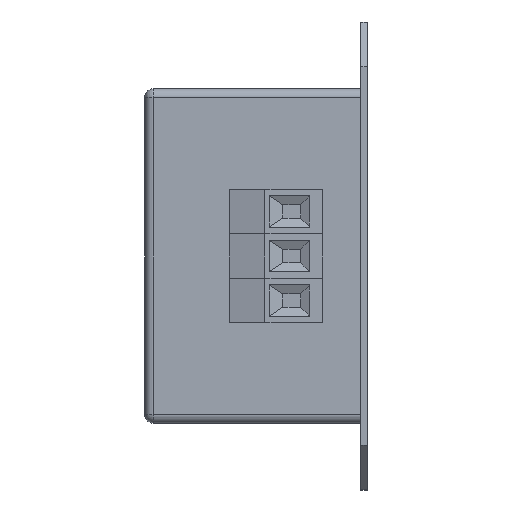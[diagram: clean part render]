
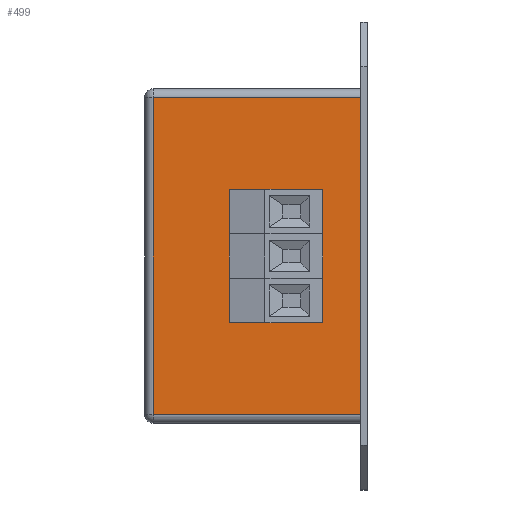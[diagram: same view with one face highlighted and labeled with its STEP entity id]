
A CAD part, left-side view. The second image highlights one B-rep face of the part: STEP entity #499.
In plain terms, the highlighted planar face has unit normal (-1, 0, 0).
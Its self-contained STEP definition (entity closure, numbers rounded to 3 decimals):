
#102 = DIRECTION ( 'NONE',  ( 0., 0., -1. ) ) ;
#454 = EDGE_CURVE ( 'NONE', #455, #456, #1537, .T. ) ;
#455 = VERTEX_POINT ( 'NONE', #2109 ) ;
#456 = VERTEX_POINT ( 'NONE', #2108 ) ;
#471 = EDGE_CURVE ( 'NONE', #472, #473, #2095, .T. ) ;
#472 = VERTEX_POINT ( 'NONE', #2090 ) ;
#473 = VERTEX_POINT ( 'NONE', #2089 ) ;
#484 = ORIENTED_EDGE ( 'NONE', *, *, #517, .T. ) ;
#485 = EDGE_LOOP ( 'NONE', ( #486, #490, #493, #496 ) ) ;
#486 = ORIENTED_EDGE ( 'NONE', *, *, #487, .T. ) ;
#487 = EDGE_CURVE ( 'NONE', #488, #489, #2135, .T. ) ;
#488 = VERTEX_POINT ( 'NONE', #2131 ) ;
#489 = VERTEX_POINT ( 'NONE', #2130 ) ;
#490 = ORIENTED_EDGE ( 'NONE', *, *, #491, .T. ) ;
#491 = EDGE_CURVE ( 'NONE', #489, #492, #2129, .T. ) ;
#492 = VERTEX_POINT ( 'NONE', #2125 ) ;
#493 = ORIENTED_EDGE ( 'NONE', *, *, #494, .T. ) ;
#494 = EDGE_CURVE ( 'NONE', #492, #495, #2124, .T. ) ;
#495 = VERTEX_POINT ( 'NONE', #2120 ) ;
#496 = ORIENTED_EDGE ( 'NONE', *, *, #547, .T. ) ;
#499 = ADVANCED_FACE ( 'NONE', ( #2115, #2114, #2113, #2112 ), #2110, .F. ) ;
#500 = EDGE_LOOP ( 'NONE', ( #501, #503 ) ) ;
#501 = ORIENTED_EDGE ( 'NONE', *, *, #502, .T. ) ;
#502 = EDGE_CURVE ( 'NONE', #473, #472, #2173, .T. ) ;
#503 = ORIENTED_EDGE ( 'NONE', *, *, #471, .T. ) ;
#504 = EDGE_LOOP ( 'NONE', ( #505, #507 ) ) ;
#505 = ORIENTED_EDGE ( 'NONE', *, *, #506, .T. ) ;
#506 = EDGE_CURVE ( 'NONE', #456, #455, #2165, .T. ) ;
#507 = ORIENTED_EDGE ( 'NONE', *, *, #454, .T. ) ;
#508 = EDGE_LOOP ( 'NONE', ( #509, #484 ) ) ;
#509 = ORIENTED_EDGE ( 'NONE', *, *, #510, .T. ) ;
#510 = EDGE_CURVE ( 'NONE', #519, #518, #2160, .T. ) ;
#517 = EDGE_CURVE ( 'NONE', #518, #519, #2145, .T. ) ;
#518 = VERTEX_POINT ( 'NONE', #2198 ) ;
#519 = VERTEX_POINT ( 'NONE', #2197 ) ;
#547 = EDGE_CURVE ( 'NONE', #495, #488, #2214, .T. ) ;
#1537 = CIRCLE ( 'NONE', #1795, 4.05 ) ;
#1794 = CARTESIAN_POINT ( 'NONE',  ( 0., 20., -62.5 ) ) ;
#1795 = AXIS2_PLACEMENT_3D ( 'NONE', #1794, #2048, #102 ) ;
#2048 = DIRECTION ( 'NONE',  ( 1., 0., 0. ) ) ;
#2089 = CARTESIAN_POINT ( 'NONE',  ( 0., 20., -46.55 ) ) ;
#2090 = CARTESIAN_POINT ( 'NONE',  ( 0., 20., -38.45 ) ) ;
#2091 = DIRECTION ( 'NONE',  ( 0., 0., -1. ) ) ;
#2092 = DIRECTION ( 'NONE',  ( 1., 0., 0. ) ) ;
#2093 = CARTESIAN_POINT ( 'NONE',  ( 0., 20., -42.5 ) ) ;
#2094 = AXIS2_PLACEMENT_3D ( 'NONE', #2093, #2092, #2091 ) ;
#2095 = CIRCLE ( 'NONE', #2094, 4.05 ) ;
#2108 = CARTESIAN_POINT ( 'NONE',  ( 0., 20., -66.55 ) ) ;
#2109 = CARTESIAN_POINT ( 'NONE',  ( 0., 20., -58.45 ) ) ;
#2110 = PLANE ( 'NONE',  #2111 ) ;
#2111 = AXIS2_PLACEMENT_3D ( 'NONE', #2172, #2171, #2170 ) ;
#2112 = FACE_OUTER_BOUND ( 'NONE', #485, .T. ) ;
#2113 = FACE_BOUND ( 'NONE', #508, .T. ) ;
#2114 = FACE_BOUND ( 'NONE', #504, .T. ) ;
#2115 = FACE_BOUND ( 'NONE', #500, .T. ) ;
#2120 = CARTESIAN_POINT ( 'NONE',  ( 0., 1.5, -17. ) ) ;
#2121 = DIRECTION ( 'NONE',  ( 0., 0., 1. ) ) ;
#2122 = VECTOR ( 'NONE', #2121, 1000. ) ;
#2123 = CARTESIAN_POINT ( 'NONE',  ( 0., 1.5, -90. ) ) ;
#2124 = LINE ( 'NONE', #2123, #2122 ) ;
#2125 = CARTESIAN_POINT ( 'NONE',  ( 0., 1.5, -88. ) ) ;
#2126 = DIRECTION ( 'NONE',  ( 0., -1., 0. ) ) ;
#2127 = VECTOR ( 'NONE', #2126, 1000. ) ;
#2128 = CARTESIAN_POINT ( 'NONE',  ( 0., 50., -88. ) ) ;
#2129 = LINE ( 'NONE', #2128, #2127 ) ;
#2130 = CARTESIAN_POINT ( 'NONE',  ( 0., 48., -88. ) ) ;
#2131 = CARTESIAN_POINT ( 'NONE',  ( 0., 48., -17. ) ) ;
#2132 = DIRECTION ( 'NONE',  ( 0., 0., -1. ) ) ;
#2133 = VECTOR ( 'NONE', #2132, 1000. ) ;
#2134 = CARTESIAN_POINT ( 'NONE',  ( 0., 48., -90. ) ) ;
#2135 = LINE ( 'NONE', #2134, #2133 ) ;
#2145 = CIRCLE ( 'NONE', #2202, 4.05 ) ;
#2156 = DIRECTION ( 'NONE',  ( 0., 0., -1. ) ) ;
#2157 = DIRECTION ( 'NONE',  ( 1., 0., 0. ) ) ;
#2158 = CARTESIAN_POINT ( 'NONE',  ( 0., 20., -52.5 ) ) ;
#2159 = AXIS2_PLACEMENT_3D ( 'NONE', #2158, #2157, #2156 ) ;
#2160 = CIRCLE ( 'NONE', #2159, 4.05 ) ;
#2161 = DIRECTION ( 'NONE',  ( 0., 0., -1. ) ) ;
#2162 = DIRECTION ( 'NONE',  ( 1., 0., 0. ) ) ;
#2163 = CARTESIAN_POINT ( 'NONE',  ( 0., 20., -62.5 ) ) ;
#2164 = AXIS2_PLACEMENT_3D ( 'NONE', #2163, #2162, #2161 ) ;
#2165 = CIRCLE ( 'NONE', #2164, 4.05 ) ;
#2166 = DIRECTION ( 'NONE',  ( 0., 0., -1. ) ) ;
#2167 = DIRECTION ( 'NONE',  ( 1., 0., 0. ) ) ;
#2168 = CARTESIAN_POINT ( 'NONE',  ( 0., 20., -42.5 ) ) ;
#2169 = AXIS2_PLACEMENT_3D ( 'NONE', #2168, #2167, #2166 ) ;
#2170 = DIRECTION ( 'NONE',  ( 0., 0., -1. ) ) ;
#2171 = DIRECTION ( 'NONE',  ( 1., 0., 0. ) ) ;
#2172 = CARTESIAN_POINT ( 'NONE',  ( 0., 50., -90. ) ) ;
#2173 = CIRCLE ( 'NONE', #2169, 4.05 ) ;
#2197 = CARTESIAN_POINT ( 'NONE',  ( 0., 20., -56.55 ) ) ;
#2198 = CARTESIAN_POINT ( 'NONE',  ( 0., 20., -48.45 ) ) ;
#2199 = DIRECTION ( 'NONE',  ( 0., 0., -1. ) ) ;
#2200 = DIRECTION ( 'NONE',  ( 1., 0., 0. ) ) ;
#2201 = CARTESIAN_POINT ( 'NONE',  ( 0., 20., -52.5 ) ) ;
#2202 = AXIS2_PLACEMENT_3D ( 'NONE', #2201, #2200, #2199 ) ;
#2211 = DIRECTION ( 'NONE',  ( 0., 1., 0. ) ) ;
#2212 = VECTOR ( 'NONE', #2211, 1000. ) ;
#2213 = CARTESIAN_POINT ( 'NONE',  ( 0., 50., -17. ) ) ;
#2214 = LINE ( 'NONE', #2213, #2212 ) ;
